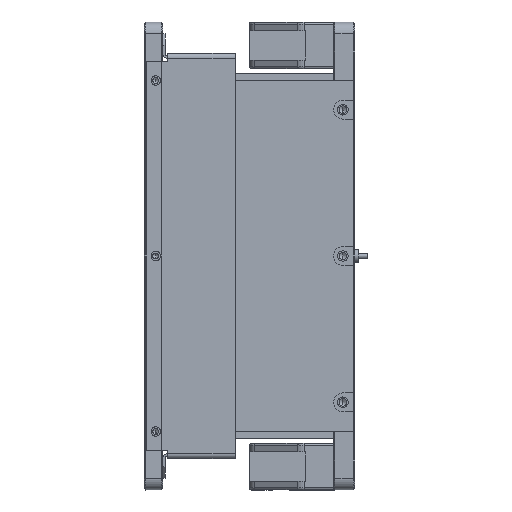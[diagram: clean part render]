
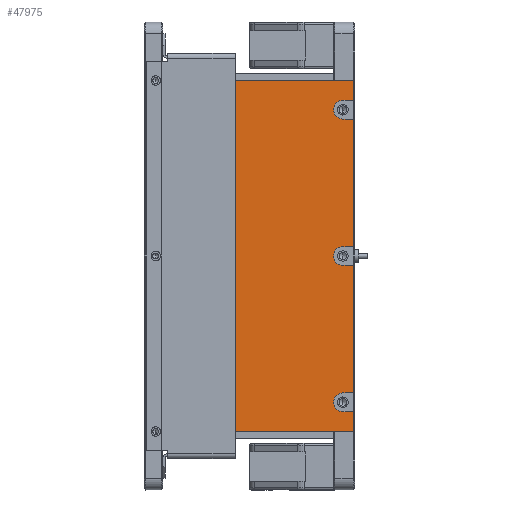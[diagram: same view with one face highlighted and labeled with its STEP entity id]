
A CAD part, left-side view. The second image highlights one B-rep face of the part: STEP entity #47975.
In plain terms, the highlighted planar face has unit normal (-1, 0, 0).
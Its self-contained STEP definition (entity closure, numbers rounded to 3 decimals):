
#530 = CIRCLE ( 'NONE', #35989, 4. ) ;
#852 = VECTOR ( 'NONE', #2266, 1000. ) ;
#1514 = LINE ( 'NONE', #54819, #13919 ) ;
#2266 = DIRECTION ( 'NONE',  ( 0., 1., 0. ) ) ;
#2770 = LINE ( 'NONE', #57152, #48157 ) ;
#3159 = DIRECTION ( 'NONE',  ( 0., -1., 0. ) ) ;
#3499 = AXIS2_PLACEMENT_3D ( 'NONE', #5211, #5002, #51658 ) ;
#3641 = ORIENTED_EDGE ( 'NONE', *, *, #6483, .T. ) ;
#4440 = VERTEX_POINT ( 'NONE', #33341 ) ;
#4914 = LINE ( 'NONE', #32382, #32768 ) ;
#5002 = DIRECTION ( 'NONE',  ( 1., 0., 0. ) ) ;
#5211 = CARTESIAN_POINT ( 'NONE',  ( -99., 5., 0. ) ) ;
#5256 = EDGE_CURVE ( 'NONE', #45512, #31267, #29702, .T. ) ;
#5589 = FACE_OUTER_BOUND ( 'NONE', #12797, .T. ) ;
#5742 = VECTOR ( 'NONE', #3159, 1000. ) ;
#6039 = ORIENTED_EDGE ( 'NONE', *, *, #30909, .T. ) ;
#6483 = EDGE_CURVE ( 'NONE', #47315, #6547, #19286, .T. ) ;
#6547 = VERTEX_POINT ( 'NONE', #34047 ) ;
#6553 = CARTESIAN_POINT ( 'NONE',  ( -99., 79., 75. ) ) ;
#6835 = VECTOR ( 'NONE', #52051, 1000. ) ;
#8076 = CARTESIAN_POINT ( 'NONE',  ( -99., 39.75, 66.5 ) ) ;
#8165 = DIRECTION ( 'NONE',  ( 0., 1., 0. ) ) ;
#8197 = LINE ( 'NONE', #30316, #852 ) ;
#8234 = CARTESIAN_POINT ( 'NONE',  ( -99., 0.5, 75. ) ) ;
#8608 = DIRECTION ( 'NONE',  ( 0., 0., 1. ) ) ;
#9853 = CARTESIAN_POINT ( 'NONE',  ( -99., 39.75, -66.5 ) ) ;
#10063 = DIRECTION ( 'NONE',  ( 0., 0., 1. ) ) ;
#10338 = DIRECTION ( 'NONE',  ( 0., 0., 1. ) ) ;
#12123 = CARTESIAN_POINT ( 'NONE',  ( -99., 5., 66.5 ) ) ;
#12797 = EDGE_LOOP ( 'NONE', ( #32168, #35332, #29372, #27094, #28299, #51318, #44169, #34932, #6039, #30745, #22868, #3641, #43479, #43636, #49694, #41997 ) ) ;
#12894 = CIRCLE ( 'NONE', #57211, 4. ) ;
#13520 = CARTESIAN_POINT ( 'NONE',  ( -99., 0.5, 75. ) ) ;
#13919 = VECTOR ( 'NONE', #8165, 1000. ) ;
#15009 = VECTOR ( 'NONE', #44351, 1000. ) ;
#16755 = EDGE_CURVE ( 'NONE', #56166, #45512, #16863, .T. ) ;
#16863 = LINE ( 'NONE', #32655, #34459 ) ;
#16870 = EDGE_CURVE ( 'NONE', #45693, #27063, #27835, .T. ) ;
#17226 = VECTOR ( 'NONE', #8608, 1000. ) ;
#18220 = DIRECTION ( 'NONE',  ( 0., 1., 0. ) ) ;
#18273 = CARTESIAN_POINT ( 'NONE',  ( -99., 5., -4. ) ) ;
#19286 = LINE ( 'NONE', #57164, #6835 ) ;
#19767 = VECTOR ( 'NONE', #37493, 1000. ) ;
#21487 = EDGE_CURVE ( 'NONE', #38326, #4440, #23331, .T. ) ;
#21639 = VERTEX_POINT ( 'NONE', #55136 ) ;
#22040 = EDGE_CURVE ( 'NONE', #23406, #38326, #530, .T. ) ;
#22142 = EDGE_CURVE ( 'NONE', #27253, #23406, #4914, .T. ) ;
#22868 = ORIENTED_EDGE ( 'NONE', *, *, #54423, .T. ) ;
#23140 = CARTESIAN_POINT ( 'NONE',  ( -99., 0.5, 58.5 ) ) ;
#23331 = LINE ( 'NONE', #8076, #5742 ) ;
#23405 = EDGE_CURVE ( 'NONE', #6547, #51220, #54677, .T. ) ;
#23406 = VERTEX_POINT ( 'NONE', #51013 ) ;
#23486 = EDGE_CURVE ( 'NONE', #51220, #56166, #12894, .T. ) ;
#23773 = VECTOR ( 'NONE', #28877, 1000. ) ;
#24826 = DIRECTION ( 'NONE',  ( 1., 0., 0. ) ) ;
#26342 = LINE ( 'NONE', #13520, #19767 ) ;
#26484 = LINE ( 'NONE', #60604, #38217 ) ;
#26766 = EDGE_CURVE ( 'NONE', #4440, #21639, #2770, .T. ) ;
#27063 = VERTEX_POINT ( 'NONE', #46024 ) ;
#27094 = ORIENTED_EDGE ( 'NONE', *, *, #51418, .T. ) ;
#27253 = VERTEX_POINT ( 'NONE', #23140 ) ;
#27835 = CIRCLE ( 'NONE', #3499, 4. ) ;
#28299 = ORIENTED_EDGE ( 'NONE', *, *, #22142, .T. ) ;
#28301 = VERTEX_POINT ( 'NONE', #45681 ) ;
#28877 = DIRECTION ( 'NONE',  ( 0., -1., 0. ) ) ;
#28979 = PLANE ( 'NONE',  #42066 ) ;
#29287 = CARTESIAN_POINT ( 'NONE',  ( -99., 0.5, -75. ) ) ;
#29309 = CARTESIAN_POINT ( 'NONE',  ( -99., 0.5, 4. ) ) ;
#29372 = ORIENTED_EDGE ( 'NONE', *, *, #30517, .T. ) ;
#29702 = LINE ( 'NONE', #8234, #17226 ) ;
#29778 = VECTOR ( 'NONE', #41780, 1000. ) ;
#30316 = CARTESIAN_POINT ( 'NONE',  ( -99., 39.75, -4. ) ) ;
#30517 = EDGE_CURVE ( 'NONE', #27063, #52736, #26484, .T. ) ;
#30745 = ORIENTED_EDGE ( 'NONE', *, *, #59125, .T. ) ;
#30909 = EDGE_CURVE ( 'NONE', #21639, #51833, #1514, .T. ) ;
#31267 = VERTEX_POINT ( 'NONE', #34315 ) ;
#32168 = ORIENTED_EDGE ( 'NONE', *, *, #37156, .T. ) ;
#32382 = CARTESIAN_POINT ( 'NONE',  ( -99., 39.75, 58.5 ) ) ;
#32655 = CARTESIAN_POINT ( 'NONE',  ( -99., 39.75, -58.5 ) ) ;
#32768 = VECTOR ( 'NONE', #18220, 1000. ) ;
#33341 = CARTESIAN_POINT ( 'NONE',  ( -99., 0.5, 66.5 ) ) ;
#33426 = DIRECTION ( 'NONE',  ( 0., 0., 1. ) ) ;
#33786 = CARTESIAN_POINT ( 'NONE',  ( -99., 0.5, -75. ) ) ;
#34047 = CARTESIAN_POINT ( 'NONE',  ( -99., 0.5, -66.5 ) ) ;
#34315 = CARTESIAN_POINT ( 'NONE',  ( -99., 0.5, -4. ) ) ;
#34459 = VECTOR ( 'NONE', #46139, 1000. ) ;
#34932 = ORIENTED_EDGE ( 'NONE', *, *, #26766, .T. ) ;
#35332 = ORIENTED_EDGE ( 'NONE', *, *, #16870, .T. ) ;
#35989 = AXIS2_PLACEMENT_3D ( 'NONE', #44583, #40122, #49311 ) ;
#37156 = EDGE_CURVE ( 'NONE', #31267, #45693, #8197, .T. ) ;
#37493 = DIRECTION ( 'NONE',  ( 0., 0., 1. ) ) ;
#38139 = CARTESIAN_POINT ( 'NONE',  ( -99., 5., -62.5 ) ) ;
#38217 = VECTOR ( 'NONE', #55884, 1000. ) ;
#38326 = VERTEX_POINT ( 'NONE', #12123 ) ;
#39355 = CARTESIAN_POINT ( 'NONE',  ( -99., 5., -66.5 ) ) ;
#39578 = CARTESIAN_POINT ( 'NONE',  ( -99., 0.5, -58.5 ) ) ;
#40122 = DIRECTION ( 'NONE',  ( 1., 0., 0. ) ) ;
#41780 = DIRECTION ( 'NONE',  ( 0., 1., 0. ) ) ;
#41997 = ORIENTED_EDGE ( 'NONE', *, *, #5256, .T. ) ;
#42066 = AXIS2_PLACEMENT_3D ( 'NONE', #57225, #52117, #10338 ) ;
#43479 = ORIENTED_EDGE ( 'NONE', *, *, #23405, .T. ) ;
#43636 = ORIENTED_EDGE ( 'NONE', *, *, #23486, .T. ) ;
#44169 = ORIENTED_EDGE ( 'NONE', *, *, #21487, .T. ) ;
#44351 = DIRECTION ( 'NONE',  ( 0., 0., -1. ) ) ;
#44583 = CARTESIAN_POINT ( 'NONE',  ( -99., 5., 62.5 ) ) ;
#45512 = VERTEX_POINT ( 'NONE', #39578 ) ;
#45681 = CARTESIAN_POINT ( 'NONE',  ( -99., 79., -75. ) ) ;
#45693 = VERTEX_POINT ( 'NONE', #18273 ) ;
#46024 = CARTESIAN_POINT ( 'NONE',  ( -99., 5., 4. ) ) ;
#46139 = DIRECTION ( 'NONE',  ( 0., -1., 0. ) ) ;
#47315 = VERTEX_POINT ( 'NONE', #33786 ) ;
#47975 = ADVANCED_FACE ( 'NONE', ( #5589 ), #28979, .T. ) ;
#48157 = VECTOR ( 'NONE', #33426, 1000. ) ;
#48620 = LINE ( 'NONE', #29287, #23773 ) ;
#49311 = DIRECTION ( 'NONE',  ( 0., 0., 1. ) ) ;
#49694 = ORIENTED_EDGE ( 'NONE', *, *, #16755, .T. ) ;
#51013 = CARTESIAN_POINT ( 'NONE',  ( -99., 5., 58.5 ) ) ;
#51220 = VERTEX_POINT ( 'NONE', #39355 ) ;
#51318 = ORIENTED_EDGE ( 'NONE', *, *, #22040, .T. ) ;
#51352 = CARTESIAN_POINT ( 'NONE',  ( -99., 5., -58.5 ) ) ;
#51418 = EDGE_CURVE ( 'NONE', #52736, #27253, #26342, .T. ) ;
#51658 = DIRECTION ( 'NONE',  ( 0., 0., 1. ) ) ;
#51833 = VERTEX_POINT ( 'NONE', #55057 ) ;
#52051 = DIRECTION ( 'NONE',  ( 0., 0., 1. ) ) ;
#52117 = DIRECTION ( 'NONE',  ( -1., 0., 0. ) ) ;
#52736 = VERTEX_POINT ( 'NONE', #29309 ) ;
#54423 = EDGE_CURVE ( 'NONE', #28301, #47315, #48620, .T. ) ;
#54655 = LINE ( 'NONE', #6553, #15009 ) ;
#54677 = LINE ( 'NONE', #9853, #29778 ) ;
#54819 = CARTESIAN_POINT ( 'NONE',  ( -99., 0.5, 75. ) ) ;
#55057 = CARTESIAN_POINT ( 'NONE',  ( -99., 79., 75. ) ) ;
#55136 = CARTESIAN_POINT ( 'NONE',  ( -99., 0.5, 75. ) ) ;
#55884 = DIRECTION ( 'NONE',  ( 0., -1., 0. ) ) ;
#56166 = VERTEX_POINT ( 'NONE', #51352 ) ;
#57152 = CARTESIAN_POINT ( 'NONE',  ( -99., 0.5, 75. ) ) ;
#57164 = CARTESIAN_POINT ( 'NONE',  ( -99., 0.5, 75. ) ) ;
#57211 = AXIS2_PLACEMENT_3D ( 'NONE', #38139, #24826, #10063 ) ;
#57225 = CARTESIAN_POINT ( 'NONE',  ( -99., 39.75, 0. ) ) ;
#59125 = EDGE_CURVE ( 'NONE', #51833, #28301, #54655, .T. ) ;
#60604 = CARTESIAN_POINT ( 'NONE',  ( -99., 39.75, 4. ) ) ;
